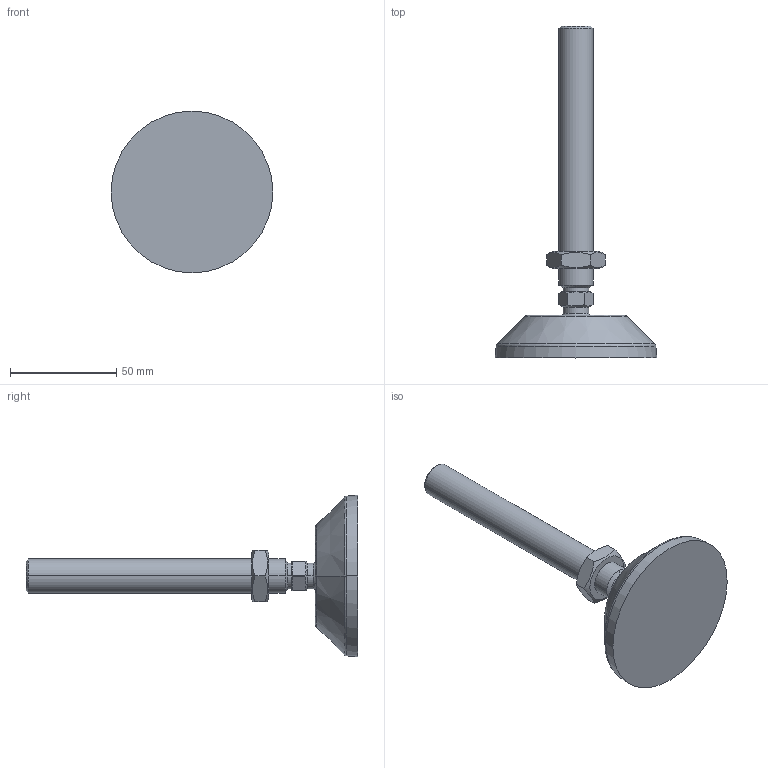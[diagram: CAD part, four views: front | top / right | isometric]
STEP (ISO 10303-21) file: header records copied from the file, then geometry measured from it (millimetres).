
FILE_DESCRIPTION (( 'STEP AP203' ), '1' );
FILE_NAME ('30029_STE80M16160.STEP', '2018-03-20T11:33:09', ( '' ), ( '' ), 'SwSTEP 2.0', 'SolidWorks 2017', '' );
FILE_SCHEMA (( 'CONFIG_CONTROL_DESIGN' ));
Length unit declared in the file: millimetre
Products named in the file (1): 30029_STE80M16160
Bounding box: 76 x 156 x 76 mm (x, y, z)
Volume: 97227 mm3; surface area: 19484.5 mm2
Topology: 1 solids, 1 shells, 76 faces, 176 edges, 107 vertices
Faces by surface type: plane 24, cone 21, cylinder 17, bspline 14
Entity records: 2837 total; most frequent: CARTESIAN_POINT 1130, ORIENTED_EDGE 352, DIRECTION 330, EDGE_CURVE 176, AXIS2_PLACEMENT_3D 143, VERTEX_POINT 107, EDGE_LOOP 81, CIRCLE 80
